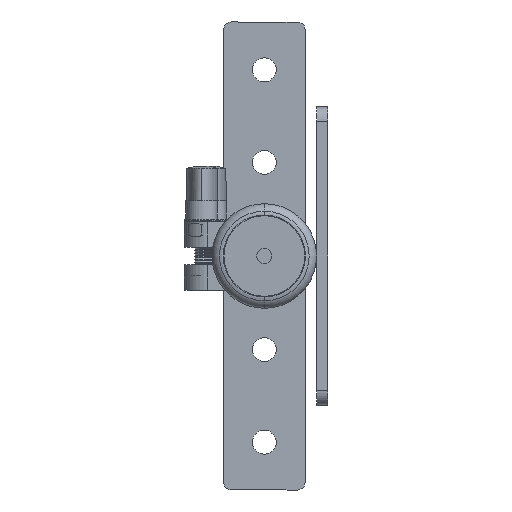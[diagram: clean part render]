
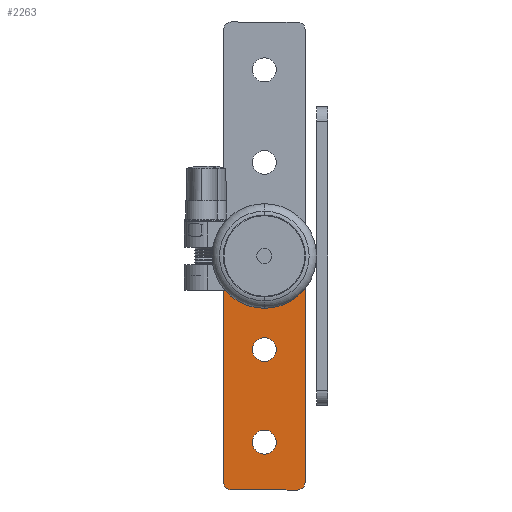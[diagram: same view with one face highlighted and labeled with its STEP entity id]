
A CAD part, front view. The second image highlights one B-rep face of the part: STEP entity #2263.
In plain terms, the highlighted planar face has unit normal (0, -1, 0).
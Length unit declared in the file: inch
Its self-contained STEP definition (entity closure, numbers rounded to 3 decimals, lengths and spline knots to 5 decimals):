
#34 = CARTESIAN_POINT ( 'NONE',  ( 3.916, 1.555, -0.54878 ) ) ;
#153 = CARTESIAN_POINT ( 'NONE',  ( 3.116, 1.555, 0. ) ) ;
#276 = AXIS2_PLACEMENT_3D ( 'NONE', #18765, #10089, #1398 ) ;
#410 = EDGE_LOOP ( 'NONE', ( #3021, #1158 ) ) ;
#446 = CARTESIAN_POINT ( 'NONE',  ( 3.116, 1.555, 0. ) ) ;
#565 = VERTEX_POINT ( 'NONE', #4266 ) ;
#578 = VECTOR ( 'NONE', #18634, 39.37008 ) ;
#1090 = ORIENTED_EDGE ( 'NONE', *, *, #12637, .T. ) ;
#1093 = CARTESIAN_POINT ( 'NONE',  ( -3.78228, 1.555, 0.6825 ) ) ;
#1154 = DIRECTION ( 'NONE',  ( 0., 0., 1. ) ) ;
#1158 = ORIENTED_EDGE ( 'NONE', *, *, #15733, .T. ) ;
#1398 = DIRECTION ( 'NONE',  ( 0., 0., -1. ) ) ;
#1444 = VERTEX_POINT ( 'NONE', #14343 ) ;
#1483 = CIRCLE ( 'NONE', #9625, 0.13372 ) ;
#1600 = DIRECTION ( 'NONE',  ( 0., 0., -1. ) ) ;
#1736 = CARTESIAN_POINT ( 'NONE',  ( 0., 1.555, 0. ) ) ;
#1807 = DIRECTION ( 'NONE',  ( -1., 0., 0. ) ) ;
#1894 = DIRECTION ( 'NONE',  ( 0., 0., -1. ) ) ;
#1986 = VERTEX_POINT ( 'NONE', #5855 ) ;
#1989 = CARTESIAN_POINT ( 'NONE',  ( 1.566, 1.555, 0. ) ) ;
#2049 = CIRCLE ( 'NONE', #16096, 0.2 ) ;
#2263 = ADVANCED_FACE ( 'NONE', ( #9618, #16882, #2366 ), #5732, .T. ) ;
#2366 = FACE_OUTER_BOUND ( 'NONE', #12497, .T. ) ;
#3021 = ORIENTED_EDGE ( 'NONE', *, *, #9125, .T. ) ;
#3190 = DIRECTION ( 'NONE',  ( 0., 0., 1. ) ) ;
#3456 = DIRECTION ( 'NONE',  ( 0., 0., -1. ) ) ;
#3955 = CARTESIAN_POINT ( 'NONE',  ( 0.48539, 1.555, -0.6825 ) ) ;
#4019 = DIRECTION ( 'NONE',  ( 1., 0., 0. ) ) ;
#4266 = CARTESIAN_POINT ( 'NONE',  ( 3.78228, 1.555, 0.6825 ) ) ;
#5255 = CARTESIAN_POINT ( 'NONE',  ( 1.566, 1.555, 0. ) ) ;
#5732 = PLANE ( 'NONE',  #276 ) ;
#5800 = ORIENTED_EDGE ( 'NONE', *, *, #10640, .T. ) ;
#5855 = CARTESIAN_POINT ( 'NONE',  ( 0.48539, 1.555, 0.6825 ) ) ;
#6583 = EDGE_CURVE ( 'NONE', #1986, #9827, #17927, .T. ) ;
#6670 = ORIENTED_EDGE ( 'NONE', *, *, #9838, .F. ) ;
#6719 = DIRECTION ( 'NONE',  ( 0., 0., -1. ) ) ;
#7115 = CARTESIAN_POINT ( 'NONE',  ( 3.78228, 1.555, -0.54878 ) ) ;
#7419 = CARTESIAN_POINT ( 'NONE',  ( 3.916, 1.555, 0.54878 ) ) ;
#8150 = EDGE_CURVE ( 'NONE', #15322, #9827, #15300, .T. ) ;
#8256 = AXIS2_PLACEMENT_3D ( 'NONE', #1736, #11894, #3190 ) ;
#8298 = LINE ( 'NONE', #11451, #578 ) ;
#8458 = VERTEX_POINT ( 'NONE', #13040 ) ;
#8533 = CARTESIAN_POINT ( 'NONE',  ( 3.116, 1.555, 0.2 ) ) ;
#8569 = DIRECTION ( 'NONE',  ( 0., 0., -1. ) ) ;
#8955 = AXIS2_PLACEMENT_3D ( 'NONE', #446, #10593, #1894 ) ;
#9041 = CARTESIAN_POINT ( 'NONE',  ( -3.78228, 1.555, -0.6825 ) ) ;
#9097 = CIRCLE ( 'NONE', #13394, 0.2 ) ;
#9125 = EDGE_CURVE ( 'NONE', #1444, #9836, #9097, .T. ) ;
#9618 = FACE_BOUND ( 'NONE', #410, .T. ) ;
#9625 = AXIS2_PLACEMENT_3D ( 'NONE', #18521, #9846, #1154 ) ;
#9827 = VERTEX_POINT ( 'NONE', #3955 ) ;
#9836 = VERTEX_POINT ( 'NONE', #11271 ) ;
#9838 = EDGE_CURVE ( 'NONE', #1986, #565, #14336, .T. ) ;
#9846 = DIRECTION ( 'NONE',  ( 0., 1., 0. ) ) ;
#9988 = AXIS2_PLACEMENT_3D ( 'NONE', #1989, #12165, #3456 ) ;
#10089 = DIRECTION ( 'NONE',  ( 0., -1., 0. ) ) ;
#10279 = DIRECTION ( 'NONE',  ( 0., 1., 0. ) ) ;
#10475 = VECTOR ( 'NONE', #4019, 39.37008 ) ;
#10506 = VERTEX_POINT ( 'NONE', #8533 ) ;
#10593 = DIRECTION ( 'NONE',  ( 0., 1., 0. ) ) ;
#10598 = ORIENTED_EDGE ( 'NONE', *, *, #6583, .T. ) ;
#10640 = EDGE_CURVE ( 'NONE', #10506, #8458, #2049, .T. ) ;
#11033 = CARTESIAN_POINT ( 'NONE',  ( 3.78228, 1.555, -0.6825 ) ) ;
#11271 = CARTESIAN_POINT ( 'NONE',  ( 1.566, 1.555, 0.2 ) ) ;
#11353 = EDGE_CURVE ( 'NONE', #15562, #15322, #16203, .T. ) ;
#11434 = VECTOR ( 'NONE', #1807, 39.37008 ) ;
#11451 = CARTESIAN_POINT ( 'NONE',  ( 3.916, 1.555, 0.54878 ) ) ;
#11894 = DIRECTION ( 'NONE',  ( 0., 1., 0. ) ) ;
#12165 = DIRECTION ( 'NONE',  ( 0., 1., 0. ) ) ;
#12497 = EDGE_LOOP ( 'NONE', ( #6670, #10598, #14091, #17006, #16385, #13814 ) ) ;
#12637 = EDGE_CURVE ( 'NONE', #8458, #10506, #16587, .T. ) ;
#13040 = CARTESIAN_POINT ( 'NONE',  ( 3.116, 1.555, -0.2 ) ) ;
#13313 = CIRCLE ( 'NONE', #9988, 0.2 ) ;
#13394 = AXIS2_PLACEMENT_3D ( 'NONE', #5255, #15410, #6719 ) ;
#13814 = ORIENTED_EDGE ( 'NONE', *, *, #15993, .F. ) ;
#14091 = ORIENTED_EDGE ( 'NONE', *, *, #8150, .F. ) ;
#14336 = LINE ( 'NONE', #1093, #10475 ) ;
#14343 = CARTESIAN_POINT ( 'NONE',  ( 1.566, 1.555, -0.2 ) ) ;
#15300 = LINE ( 'NONE', #9041, #11434 ) ;
#15322 = VERTEX_POINT ( 'NONE', #11033 ) ;
#15410 = DIRECTION ( 'NONE',  ( 0., 1., 0. ) ) ;
#15562 = VERTEX_POINT ( 'NONE', #34 ) ;
#15733 = EDGE_CURVE ( 'NONE', #9836, #1444, #13313, .T. ) ;
#15987 = AXIS2_PLACEMENT_3D ( 'NONE', #7115, #17247, #8569 ) ;
#15993 = EDGE_CURVE ( 'NONE', #565, #17666, #1483, .T. ) ;
#16046 = EDGE_CURVE ( 'NONE', #17666, #15562, #8298, .T. ) ;
#16096 = AXIS2_PLACEMENT_3D ( 'NONE', #153, #10279, #1600 ) ;
#16203 = CIRCLE ( 'NONE', #15987, 0.13372 ) ;
#16298 = EDGE_LOOP ( 'NONE', ( #1090, #5800 ) ) ;
#16385 = ORIENTED_EDGE ( 'NONE', *, *, #16046, .F. ) ;
#16587 = CIRCLE ( 'NONE', #8955, 0.2 ) ;
#16882 = FACE_BOUND ( 'NONE', #16298, .T. ) ;
#17006 = ORIENTED_EDGE ( 'NONE', *, *, #11353, .F. ) ;
#17247 = DIRECTION ( 'NONE',  ( 0., 1., 0. ) ) ;
#17666 = VERTEX_POINT ( 'NONE', #7419 ) ;
#17927 = CIRCLE ( 'NONE', #8256, 0.8375 ) ;
#18521 = CARTESIAN_POINT ( 'NONE',  ( 3.78228, 1.555, 0.54878 ) ) ;
#18634 = DIRECTION ( 'NONE',  ( 0., 0., -1. ) ) ;
#18765 = CARTESIAN_POINT ( 'NONE',  ( 3.78228, 1.555, -0.54878 ) ) ;
